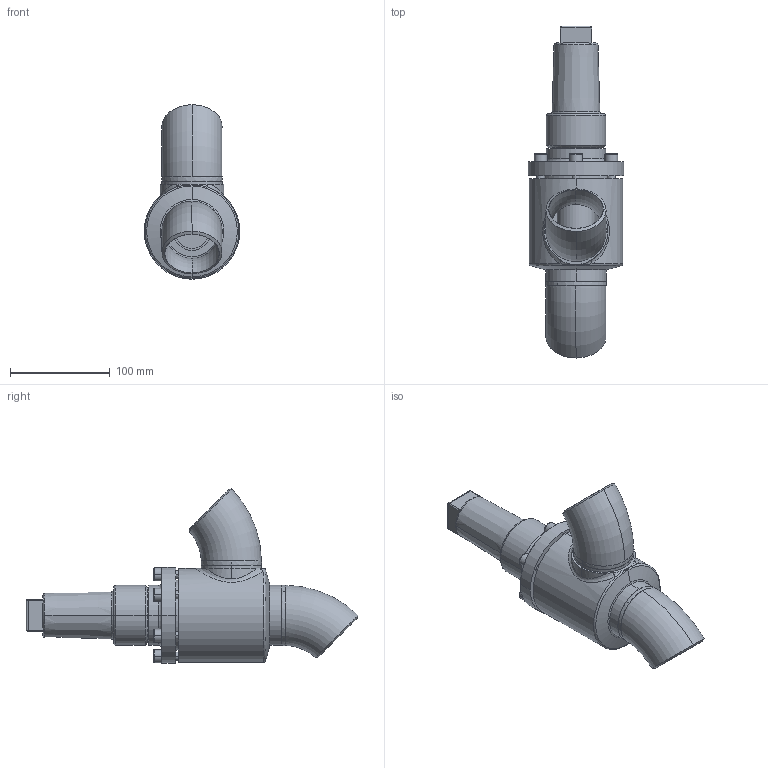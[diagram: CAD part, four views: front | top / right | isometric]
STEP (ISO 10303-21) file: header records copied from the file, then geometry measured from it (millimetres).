
FILE_DESCRIPTION (( 'STEP AP214' ), '1' );
FILE_NAME ('AVR26300D15-DN050_R1_PS40.STEP', '2006-04-27T13:24:21', ( 'Herr Grams' ), ( 'AWP GmbH' ), 'SwSTEP 2.0', 'SolidWorks 2002296', '' );
FILE_SCHEMA (( 'AUTOMOTIVE_DESIGN' ));
Length unit declared in the file: millimetre
Products named in the file (10): AVR26300D15-DN050_R1_PS40; Kappe16402_DN040-65_Standard; Gehäuse-kpl16300-DN050_R1_Standard; Gehäuse16300-DN050_Standard; Rohrbogen 45°_R1-Fase_Rohrbogen-DN050-45°; bead16300-Geh-050-2_Standard; bead16300-Geh-050-1_Standard; AVR26300E15_Deck+Schr-DN40-50_Standard; Deckel26300E15-DN40-50_Standard; Zylinderschraube-DIN912_M 8x 25
Assembly tree (15 placements, depth 3):
  AVR26300D15-DN050_R1_PS40
    Kappe16402_DN040-65_Standard
    Gehäuse-kpl16300-DN050_R1_Standard
      Gehäuse16300-DN050_Standard
      bead16300-Geh-050-1_Standard
      Rohrbogen 45°_R1-Fase_Rohrbogen-DN050-45°  x2
      bead16300-Geh-050-2_Standard
    AVR26300E15_Deck+Schr-DN40-50_Standard
      Zylinderschraube-DIN912_M 8x 25  x6
      Deckel26300E15-DN40-50_Standard
Bounding box: 96 x 332.93 x 174.93 mm (x, y, z)
Volume: 737302.2 mm3; surface area: 185091.7 mm2
Topology: 13 solids, 13 shells, 282 faces, 629 edges, 396 vertices
Faces by surface type: plane 95, cylinder 93, cone 50, torus 33, bspline 11
Entity records: 35577 total; most frequent: CARTESIAN_POINT 30735, DIRECTION 906, ORIENTED_EDGE 834, EDGE_CURVE 417, AXIS2_PLACEMENT_3D 384, VERTEX_POINT 262, EDGE_LOOP 217, CIRCLE 193
